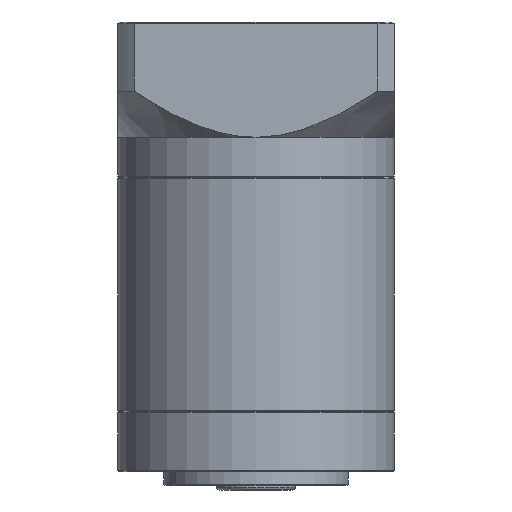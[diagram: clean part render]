
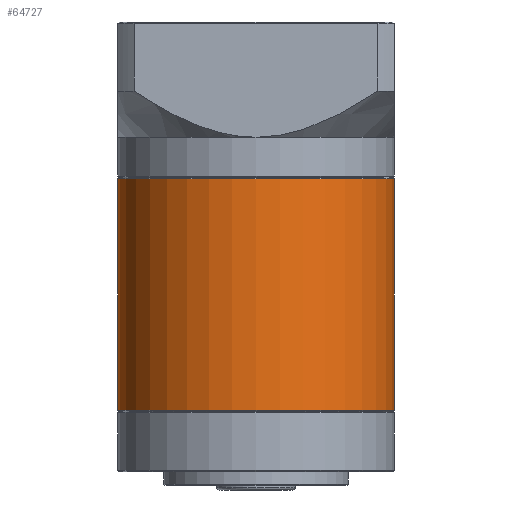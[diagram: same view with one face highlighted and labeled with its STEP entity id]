
A CAD part, front view. The second image highlights one B-rep face of the part: STEP entity #64727.
In plain terms, the highlighted cylindrical face has radius 30 mm (diameter 60 mm), a partial arc.
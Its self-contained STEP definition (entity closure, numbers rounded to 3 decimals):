
#17 = VECTOR ( 'NONE', #88605, 1000. ) ;
#4505 = DIRECTION ( 'NONE',  ( 0., 0., -1. ) ) ;
#4574 = EDGE_CURVE ( 'NONE', #78207, #96808, #80207, .T. ) ;
#9689 = CARTESIAN_POINT ( 'NONE',  ( -32.624, 24.461, -78.394 ) ) ;
#10135 = DIRECTION ( 'NONE',  ( 0., 0., 1. ) ) ;
#12275 = CARTESIAN_POINT ( 'NONE',  ( -32.624, 24.461, -27.844 ) ) ;
#15098 = LINE ( 'NONE', #12275, #53969 ) ;
#15478 = ORIENTED_EDGE ( 'NONE', *, *, #95806, .T. ) ;
#16038 = ORIENTED_EDGE ( 'NONE', *, *, #39748, .T. ) ;
#16616 = CIRCLE ( 'NONE', #16983, 30. ) ;
#16983 = AXIS2_PLACEMENT_3D ( 'NONE', #18783, #73029, #26598 ) ;
#18783 = CARTESIAN_POINT ( 'NONE',  ( -62.624, 24.461, -28.094 ) ) ;
#20166 = DIRECTION ( 'NONE',  ( 0., 0., -1. ) ) ;
#21355 = CYLINDRICAL_SURFACE ( 'NONE', #49525, 30. ) ;
#26598 = DIRECTION ( 'NONE',  ( 1., 0., 0. ) ) ;
#39248 = EDGE_LOOP ( 'NONE', ( #64250, #16038, #91758, #15478 ) ) ;
#39748 = EDGE_CURVE ( 'NONE', #46659, #78207, #16616, .T. ) ;
#43634 = DIRECTION ( 'NONE',  ( -1., 0., 0. ) ) ;
#46659 = VERTEX_POINT ( 'NONE', #82559 ) ;
#46922 = CIRCLE ( 'NONE', #93115, 30. ) ;
#49525 = AXIS2_PLACEMENT_3D ( 'NONE', #58857, #4505, #43634 ) ;
#53805 = EDGE_CURVE ( 'NONE', #46659, #96372, #15098, .T. ) ;
#53969 = VECTOR ( 'NONE', #20166, 1000. ) ;
#56701 = CARTESIAN_POINT ( 'NONE',  ( -62.624, 24.461, -78.394 ) ) ;
#58857 = CARTESIAN_POINT ( 'NONE',  ( -62.624, 24.461, -27.844 ) ) ;
#61596 = CARTESIAN_POINT ( 'NONE',  ( -92.624, 24.461, -78.394 ) ) ;
#62736 = CARTESIAN_POINT ( 'NONE',  ( -92.624, 24.461, -27.844 ) ) ;
#64250 = ORIENTED_EDGE ( 'NONE', *, *, #53805, .F. ) ;
#64555 = DIRECTION ( 'NONE',  ( 1., 0., 0. ) ) ;
#64727 = ADVANCED_FACE ( 'NONE', ( #90615 ), #21355, .T. ) ;
#73029 = DIRECTION ( 'NONE',  ( 0., 0., -1. ) ) ;
#78207 = VERTEX_POINT ( 'NONE', #92430 ) ;
#80207 = LINE ( 'NONE', #62736, #17 ) ;
#82559 = CARTESIAN_POINT ( 'NONE',  ( -32.624, 24.461, -28.094 ) ) ;
#88605 = DIRECTION ( 'NONE',  ( 0., 0., -1. ) ) ;
#90615 = FACE_OUTER_BOUND ( 'NONE', #39248, .T. ) ;
#91758 = ORIENTED_EDGE ( 'NONE', *, *, #4574, .T. ) ;
#92430 = CARTESIAN_POINT ( 'NONE',  ( -92.624, 24.461, -28.094 ) ) ;
#93115 = AXIS2_PLACEMENT_3D ( 'NONE', #56701, #10135, #64555 ) ;
#95806 = EDGE_CURVE ( 'NONE', #96808, #96372, #46922, .T. ) ;
#96372 = VERTEX_POINT ( 'NONE', #9689 ) ;
#96808 = VERTEX_POINT ( 'NONE', #61596 ) ;
